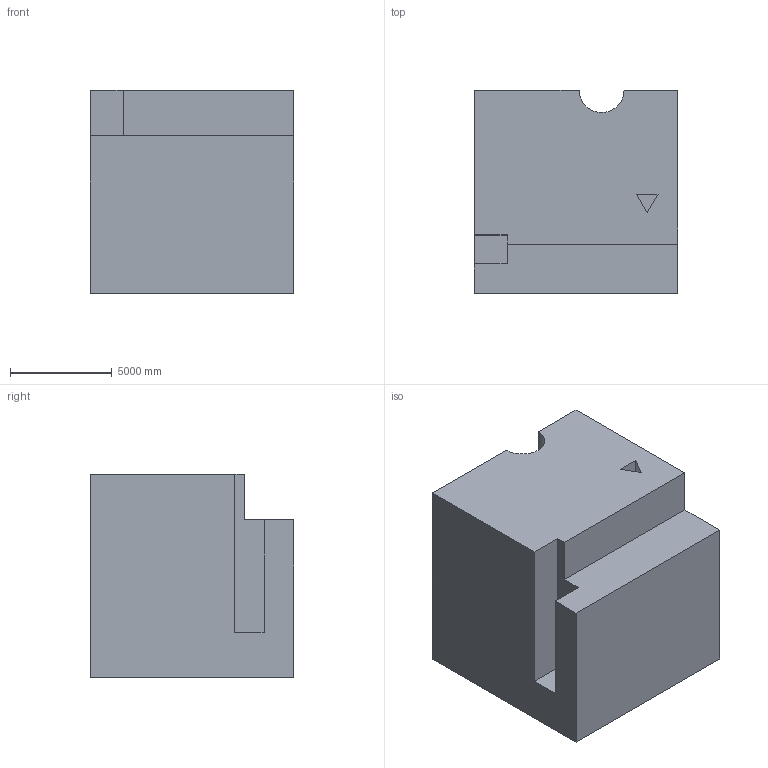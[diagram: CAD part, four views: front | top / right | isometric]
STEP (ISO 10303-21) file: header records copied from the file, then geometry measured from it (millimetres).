
FILE_DESCRIPTION (( 'STEP AP203' ), '1' );
FILE_NAME ('492.STEP', '2022-07-29T11:29:59', ( 'user' ), ( '' ), 'SwSTEP 2.0', 'SolidWorks 2021', '' );
FILE_SCHEMA (( 'CONFIG_CONTROL_DESIGN' ));
Length unit declared in the file: centimetre
Products named in the file (1): 492
Bounding box: 10000 x 10000 x 10000 mm (x, y, z)
Volume: 885214656667.6 mm3; surface area: 644823350.7 mm2
Topology: 1 solids, 1 shells, 22 faces, 57 edges, 38 vertices
Faces by surface type: plane 19, cylinder 3
Entity records: 744 total; most frequent: CARTESIAN_POINT 118, ORIENTED_EDGE 114, DIRECTION 109, EDGE_CURVE 57, LINE 51, VECTOR 51, VERTEX_POINT 38, AXIS2_PLACEMENT_3D 29
